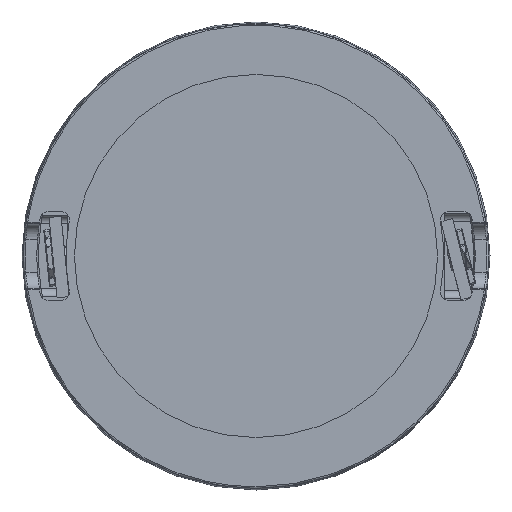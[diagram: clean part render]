
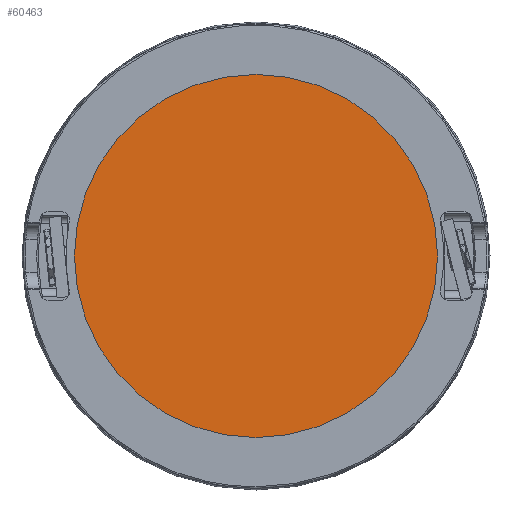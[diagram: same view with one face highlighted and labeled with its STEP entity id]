
A CAD part, front view. The second image highlights one B-rep face of the part: STEP entity #60463.
In plain terms, the highlighted planar face has unit normal (0, -1, 0).
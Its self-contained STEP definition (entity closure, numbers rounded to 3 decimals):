
#3724 = EDGE_CURVE ( 'NONE', #17402, #17402, #52868, .T. ) ;
#6783 = AXIS2_PLACEMENT_3D ( 'NONE', #9870, #54201, #84156 ) ;
#9870 = CARTESIAN_POINT ( 'NONE',  ( 0., -24.08, 0. ) ) ;
#11202 = DIRECTION ( 'NONE',  ( 0., 0., -1. ) ) ;
#17402 = VERTEX_POINT ( 'NONE', #81777 ) ;
#17503 = EDGE_LOOP ( 'NONE', ( #68944 ) ) ;
#32287 = AXIS2_PLACEMENT_3D ( 'NONE', #40319, #63003, #11202 ) ;
#40319 = CARTESIAN_POINT ( 'NONE',  ( 0., -24.08, 0. ) ) ;
#52868 = CIRCLE ( 'NONE', #32287, 22.5 ) ;
#54201 = DIRECTION ( 'NONE',  ( 0., -1., 0. ) ) ;
#60463 = ADVANCED_FACE ( 'NONE', ( #67770 ), #92350, .T. ) ;
#63003 = DIRECTION ( 'NONE',  ( 0., 1., 0. ) ) ;
#67770 = FACE_OUTER_BOUND ( 'NONE', #17503, .T. ) ;
#68944 = ORIENTED_EDGE ( 'NONE', *, *, #3724, .F. ) ;
#81777 = CARTESIAN_POINT ( 'NONE',  ( 0., -24.08, -22.5 ) ) ;
#84156 = DIRECTION ( 'NONE',  ( 0., 0., -1. ) ) ;
#92350 = PLANE ( 'NONE',  #6783 ) ;
